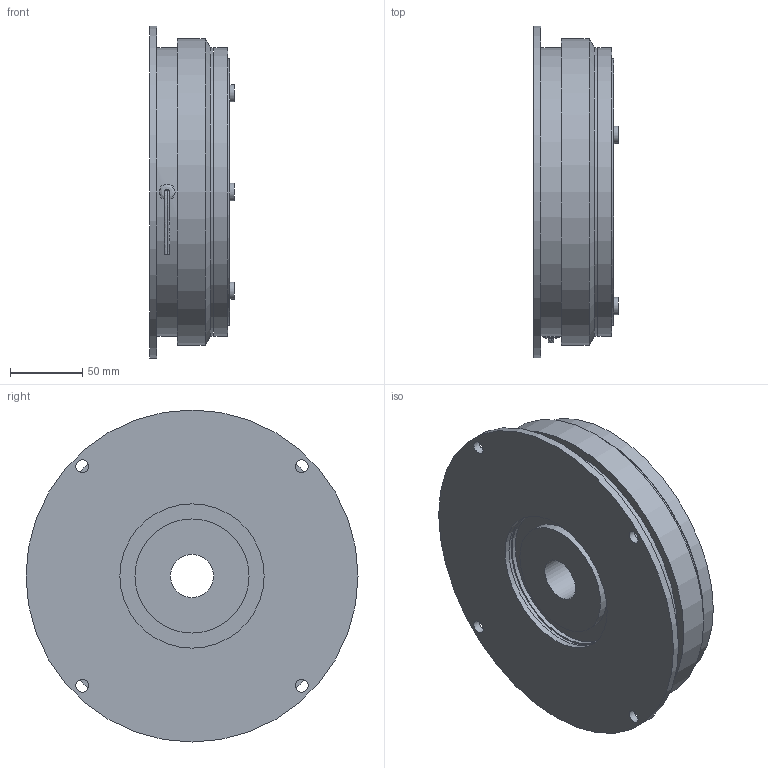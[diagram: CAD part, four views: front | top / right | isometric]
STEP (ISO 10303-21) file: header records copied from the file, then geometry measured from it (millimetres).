
FILE_DESCRIPTION(/* description */ (''),/* implementation_level */ '2;1');
FILE_NAME(/* name */ 'X:\INVENTOR\DISEGNI\08_Freni_Friz_Elettmag_Monodisco\08_20 ESAL\08_20_200_01 ESAL200\08_20_200_01 ESAL200@STEP.stp',/* time_stamp */ '2018-04-23T15:29:48+02:00',/* author */ ('stefano'),/* organization */ (''),/* preprocessor_version */ 'ST-DEVELOPER v17',/* originating_system */ 'Autodesk Inventor 2018',/* authorisation */ '');
FILE_SCHEMA (('AUTOMOTIVE_DESIGN { 1 0 10303 214 3 1 1 }'));
Length unit declared in the file: millimetre
Products named in the file (1): 08_20_200_01 ESAL200_Substitute_1
Bounding box: 58.55 x 230 x 230 mm (x, y, z)
Volume: 1671563.4 mm3; surface area: 187630.8 mm2
Topology: 2 solids, 2 shells, 83 faces, 214 edges, 151 vertices
Faces by surface type: cylinder 39, plane 34, cone 7, bspline 3
Full cylindrical faces by diameter (mm): 3 x3, 4 x1, 9 x4, 10.2 x3, 11 x1, 12 x3, 25 x3, 30 x1, 79 x1, 90 x1, 100 x4, 102.1 x1, 131 x1, 185 x1, 200 x3, 212.5 x1, 230 x1
Entity records: 3239 total; most frequent: CARTESIAN_POINT 843, DIRECTION 529, ORIENTED_EDGE 430, AXIS2_PLACEMENT_3D 239, EDGE_CURVE 215, CIRCLE 158, VERTEX_POINT 151, EDGE_LOOP 128
